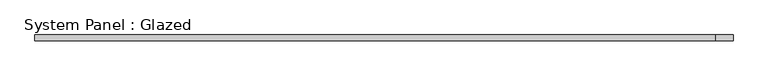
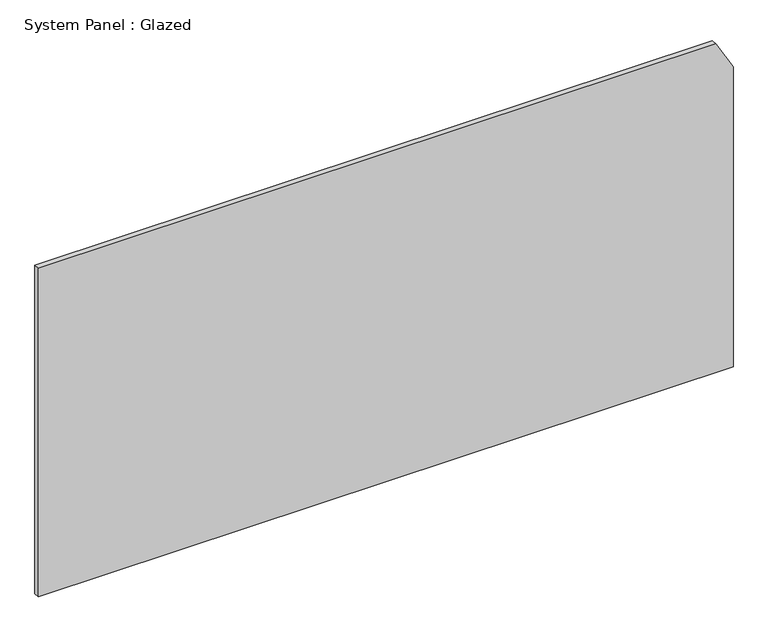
"""IFC4 building model written with IfcOpenShell, lengths in millimetres: plate geometry, System Panel : Glazed."""

from ifc_helpers import new_model, si_unit, frame, origin, place, context, project, spatial, polyline, outline, extrude, source, transform, mapped, element, save


def system_panel_glazed_03df962e(model_context):
    return source(origin(), model_context, "Body", "SweptSolid", [
        extrude(outline(polyline([(0.0, -1524.0), (0.0, 1524.0), (1392.7456808, 1524.0), (1524.0, 1448.2202835), (1524.0, -1524.0), (0.0, -1524.0)])), frame((0.0, 19.05, 0.0), z_axis=(0.0, 1.0, 0.0), x_axis=(0.0, 0.0, 1.0)), (0.0, 0.0, 1.0), 25.4),
    ])


if __name__ == "__main__":
    model = new_model("IFC4")
    model_context = context("Model", 3, world=origin())
    ifc_project = project(units=[si_unit("LENGTHUNIT", "METRE", prefix="MILLI")], contexts=[model_context])
    site = spatial("IfcSite", under=ifc_project)
    building = spatial("IfcBuilding", under=site)
    placement = place(None, origin())
    system_panel_glazed_shape = system_panel_glazed_03df962e(model_context)
    element("IfcPlate", 1, ObjectType="System Panel : Glazed", at=placement, inside=building, context=model_context, shape_type="MappedRepresentation", body=[
        mapped(system_panel_glazed_shape, transform((0.0, 0.0, 0.0), x_axis=(1.0, 0.0, 0.0), y_axis=(0.0, 1.0, 0.0), z_axis=(0.0, 0.0, 1.0))),
    ])
    save(model, "model.ifc")
